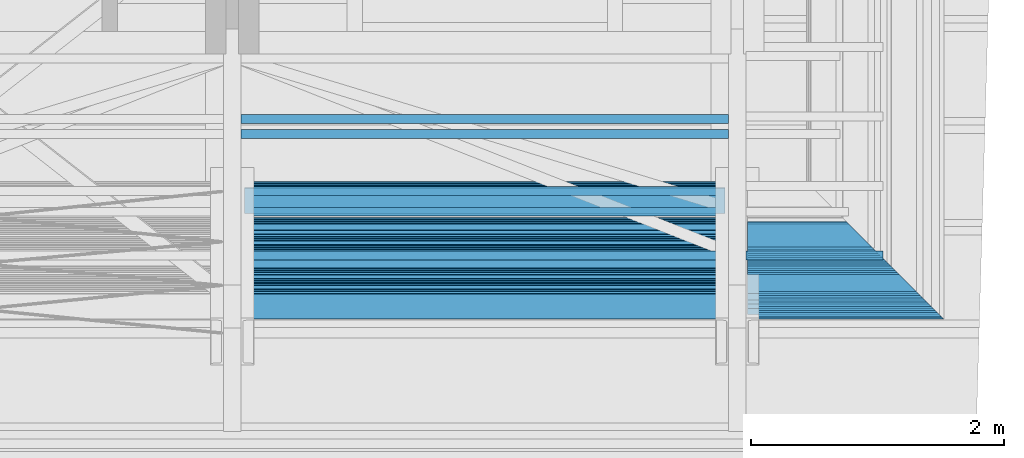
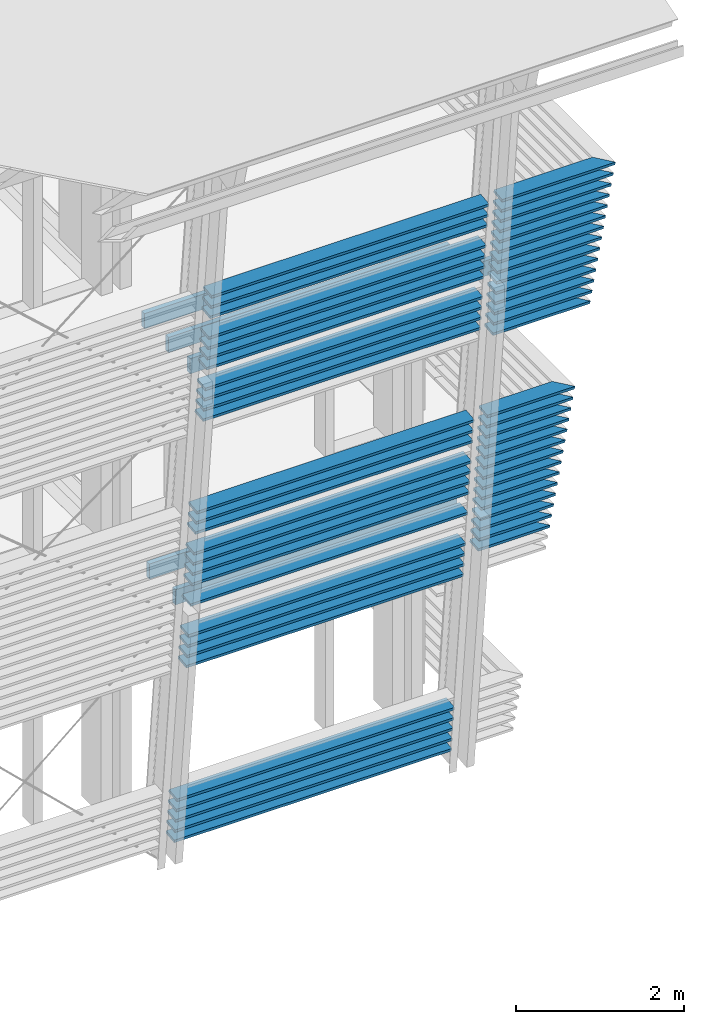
# One storey, part 21 of 48: 62 beams.
"""IFC2X3 building model written with IfcOpenShell, lengths in metres."""

from ifc_helpers import new_model, si_unit, direction, frame, origin_with_axes, place, context, subcontext, project, spatial, faceted_brep, material, element, save


model = new_model("IFC2X3")

# Units and contexts
model_context = context("Model", 3, precision=1e-06, world=origin_with_axes(), true_north=direction((0.0, 1.0, 0.0)))
body_context = subcontext(model_context, "Body", "Model", "MODEL_VIEW")
ifc_project = project(units=[si_unit("LENGTHUNIT", "METRE"), si_unit("AREAUNIT", "SQUARE_METRE"), si_unit("VOLUMEUNIT", "CUBIC_METRE"), si_unit("PLANEANGLEUNIT", "RADIAN")], contexts=[model_context])

# Site, building, storey
site_placement = place(None, origin_with_axes())
site = spatial("IfcSite", under=ifc_project, at=site_placement, CompositionType="ELEMENT")
building_placement = place(site_placement, origin_with_axes())
building = spatial("IfcBuilding", under=site, at=building_placement, Name="Building 1", CompositionType="ELEMENT")
storey_placement = place(building_placement, origin_with_axes())
storey = spatial("IfcBuildingStorey", under=building, at=storey_placement, Name="Storey 1", CompositionType="ELEMENT", Elevation=0.0)

# Beams
ifc_material_1 = material(Name="Moabi")
beam_1_placement = place(storey_placement, frame((70.9248374, -195.4452849, 7.0781028), z_axis=(0.0, 0.9945219, 0.1045285), x_axis=(-1.0, 0.0, 0.0)))
element("IfcBeam", 1, at=beam_1_placement, inside=storey, material=ifc_material_1, Name="garde corp", context=body_context, shape_type="Brep", body=[
    faceted_brep([(0.0, 0.02, -0.1), (0.0041811, -0.02, -0.1), (0.2030855, -0.02, 0.1), (0.1989044, 0.02, 0.1), (1.3533145, -0.02, -0.1), (1.3533145, -0.02, 0.1), (1.3533145, 0.02, -0.1), (1.3533145, 0.02, 0.1)], [[[0, 1, 2, 3]], [[2, 1, 4, 5]], [[1, 0, 6, 4]], [[3, 2, 5, 7]], [[0, 3, 7, 6]], [[4, 6, 7, 5]]]),
])
beam_2_placement = place(storey_placement, frame((71.0251847, -195.5456322, 8.0328439), z_axis=(0.0, 0.9945219, 0.1045285), x_axis=(-1.0, 0.0, 0.0)))
element("IfcBeam", 2, at=beam_2_placement, inside=storey, material=ifc_material_1, Name="garde corp", context=body_context, shape_type="Brep", body=[
    faceted_brep([(0.0, 0.02, -0.1), (0.0041811, -0.02, -0.1), (0.2030855, -0.02, 0.1), (0.1989044, 0.02, 0.1), (1.4536622, -0.02, -0.1), (1.4536622, -0.02, 0.1), (1.4536622, 0.02, -0.1), (1.4536622, 0.02, 0.1)], [[[0, 1, 2, 3]], [[2, 1, 4, 5]], [[1, 0, 6, 4]], [[3, 2, 5, 7]], [[0, 3, 7, 6]], [[4, 6, 7, 5]]]),
])
beam_3_placement = place(storey_placement, frame((70.7408673, -195.2613148, 5.3277443), z_axis=(0.0, 0.9945219, 0.1045285), x_axis=(-1.0, 0.0, 0.0)))
element("IfcBeam", 3, at=beam_3_placement, inside=storey, material=ifc_material_1, Name="garde corp", context=body_context, shape_type="Brep", body=[
    faceted_brep([(0.2030855, -0.02, 0.1), (0.1989044, 0.02, 0.1), (0.0, 0.02, -0.1), (0.0041811, -0.02, -0.1), (1.1693444, 0.02, 0.1), (1.1693444, 0.02, -0.1), (1.1693444, -0.02, 0.1), (1.1693444, -0.02, -0.1)], [[[0, 1, 2, 3]], [[2, 1, 4, 5]], [[1, 0, 6, 4]], [[0, 3, 7, 6]], [[3, 2, 5, 7]], [[7, 5, 4, 6]]]),
])
beam_4_placement = place(storey_placement, frame((70.5903463, -195.1107938, 3.8956328), z_axis=(0.0, 0.9945219, 0.1045285), x_axis=(-1.0, 0.0, 0.0)))
element("IfcBeam", 4, at=beam_4_placement, inside=storey, material=ifc_material_1, Name="garde corp", context=body_context, shape_type="Brep", body=[
    faceted_brep([(0.2030855, -0.02, 0.1), (0.1989044, 0.02, 0.1), (0.0, 0.02, -0.1), (0.0041811, -0.02, -0.1), (1.0188234, 0.02, 0.1), (1.0188234, 0.02, -0.1), (1.0188234, -0.02, 0.1), (1.0188234, -0.02, -0.1)], [[[0, 1, 2, 3]], [[2, 1, 4, 5]], [[1, 0, 6, 4]], [[0, 3, 7, 6]], [[3, 2, 5, 7]], [[7, 5, 4, 6]]]),
])
beam_5_placement = place(storey_placement, frame((71.0586223, -195.5790813, 8.3510909), z_axis=(0.0, 0.9945219, 0.1045285), x_axis=(-1.0, 0.0, 0.0)))
element("IfcBeam", 5, at=beam_5_placement, inside=storey, material=ifc_material_1, Name="garde corp", context=body_context, shape_type="Brep", body=[
    faceted_brep([(0.0, 0.0198904, -0.1), (0.0041811, -0.02, -0.1), (0.2030855, -0.02, 0.1), (0.1988929, 0.02, 0.1), (0.0, 0.02, -0.1), (1.4870994, -0.02, 0.1), (1.4870994, 0.02, 0.1), (1.4870994, -0.02, -0.1), (0.0, 0.02, -0.1), (1.4870994, 0.02, -0.1)], [[[0, 1, 2, 3, 4]], [[3, 2, 5, 6]], [[2, 1, 7, 5]], [[1, 0, 8, 9, 7]], [[4, 3, 6, 9, 8]], [[7, 9, 6, 5]]]),
])
beam_6_placement = place(storey_placement, frame((70.975011, -195.4954586, 7.5554733), z_axis=(0.0, 0.9945219, 0.1045285), x_axis=(-1.0, 0.0, 0.0)))
element("IfcBeam", 6, at=beam_6_placement, inside=storey, material=ifc_material_1, Name="garde corp", context=body_context, shape_type="Brep", body=[
    faceted_brep([(0.0, 0.02, -0.1), (0.0041811, -0.02, -0.1), (0.2030855, -0.02, 0.1), (0.1989044, 0.02, 0.1), (1.4034881, -0.02, -0.1), (1.4034881, -0.02, 0.1), (1.4034881, 0.02, -0.1), (1.4034881, 0.02, 0.1)], [[[0, 1, 2, 3]], [[2, 1, 4, 5]], [[1, 0, 6, 4]], [[3, 2, 5, 7]], [[0, 3, 7, 6]], [[4, 6, 7, 5]]]),
])
beam_7_placement = place(storey_placement, frame((71.0753469, -195.5958059, 8.5102144), z_axis=(0.0, 0.9945219, 0.1045285), x_axis=(-1.0, 0.0, 0.0)))
element("IfcBeam", 7, at=beam_7_placement, inside=storey, material=ifc_material_1, Name="garde corp", context=body_context, shape_type="Brep", body=[
    faceted_brep([(0.0, 0.0198904, -0.1), (0.0041811, -0.02, -0.1), (0.2030855, -0.02, 0.1), (0.1988929, 0.02, 0.1), (0.0, 0.02, -0.1), (1.503824, -0.02, 0.1), (1.503824, 0.02, 0.1), (1.503824, -0.02, -0.1), (0.0, 0.02, -0.1), (1.503824, 0.02, -0.1)], [[[0, 1, 2, 3, 4]], [[3, 2, 5, 6]], [[2, 1, 7, 5]], [[1, 0, 8, 9, 7]], [[4, 3, 6, 9, 8]], [[7, 9, 6, 5]]]),
])
beam_8_placement = place(storey_placement, frame((70.9582865, -195.478734, 7.3963498), z_axis=(0.0, 0.9945219, 0.1045285), x_axis=(-1.0, 0.0, 0.0)))
element("IfcBeam", 8, at=beam_8_placement, inside=storey, material=ifc_material_1, Name="garde corp", context=body_context, shape_type="Brep", body=[
    faceted_brep([(0.0, 0.02, -0.1), (0.0041811, -0.02, -0.1), (0.2030855, -0.02, 0.1), (0.1989044, 0.02, 0.1), (1.3867636, -0.02, -0.1), (1.3867636, -0.02, 0.1), (1.3867636, 0.02, -0.1), (1.3867636, 0.02, 0.1)], [[[0, 1, 2, 3]], [[2, 1, 4, 5]], [[1, 0, 6, 4]], [[3, 2, 5, 7]], [[0, 3, 7, 6]], [[4, 6, 7, 5]]]),
])
beam_9_placement = place(storey_placement, frame((70.9081128, -195.4285604, 6.9189793), z_axis=(0.0, 0.9945219, 0.1045285), x_axis=(-1.0, 0.0, 0.0)))
element("IfcBeam", 9, at=beam_9_placement, inside=storey, material=ifc_material_1, Name="garde corp", context=body_context, shape_type="Brep", body=[
    faceted_brep([(0.0, 0.02, -0.1), (0.0041811, -0.02, -0.1), (0.2030855, -0.02, 0.1), (0.1989044, 0.02, 0.1), (1.3365899, -0.02, -0.1), (1.3365899, -0.02, 0.1), (1.3365899, 0.02, -0.1), (1.3365899, 0.02, 0.1)], [[[0, 1, 2, 3]], [[2, 1, 4, 5]], [[1, 0, 6, 4]], [[3, 2, 5, 7]], [[0, 3, 7, 6]], [[4, 6, 7, 5]]]),
])
beam_10_placement = place(storey_placement, frame((69.3927441, -194.7595782, 0.5540392), z_axis=(0.0, 0.9945219, 0.1045285), x_axis=(-1.0, 0.0, 0.0)))
element("IfcBeam", 10, at=beam_10_placement, inside=storey, material=ifc_material_1, Name="garde corp", context=body_context, shape_type="Brep", body=[
    faceted_brep([(3.806, 0.02, -0.1), (3.806, -0.02, -0.1), (0.0, -0.02, -0.1), (0.0, 0.02, -0.1), (3.806, -0.02, 0.1), (0.0, -0.02, 0.1), (3.806, 0.02, 0.1), (0.0, 0.02, 0.1)], [[[0, 1, 2, 3]], [[1, 4, 5, 2]], [[4, 6, 7, 5]], [[6, 0, 3, 7]], [[1, 0, 6, 4]], [[7, 3, 2, 5]]]),
])
beam_11_placement = place(storey_placement, frame((70.9415619, -195.4620095, 7.2372263), z_axis=(0.0, 0.9945219, 0.1045285), x_axis=(-1.0, 0.0, 0.0)))
element("IfcBeam", 11, at=beam_11_placement, inside=storey, material=ifc_material_1, Name="garde corp", context=body_context, shape_type="Brep", body=[
    faceted_brep([(0.0, 0.02, -0.1), (0.0041811, -0.02, -0.1), (0.2030855, -0.02, 0.1), (0.1989044, 0.02, 0.1), (1.370039, -0.02, -0.1), (1.370039, -0.02, 0.1), (1.370039, 0.02, -0.1), (1.370039, 0.02, 0.1)], [[[0, 1, 2, 3]], [[2, 1, 4, 5]], [[1, 0, 6, 4]], [[3, 2, 5, 7]], [[0, 3, 7, 6]], [[4, 6, 7, 5]]]),
])
beam_12_placement = place(storey_placement, frame((71.0084487, -195.5289077, 7.8737203), z_axis=(0.0, 0.9945219, 0.1045285), x_axis=(-1.0, 0.0, 0.0)))
element("IfcBeam", 12, at=beam_12_placement, inside=storey, material=ifc_material_1, Name="garde corp", context=body_context, shape_type="Brep", body=[
    faceted_brep([(0.0, 0.0198904, -0.1), (0.0041811, -0.02, -0.1), (0.2030855, -0.02, 0.1), (0.1988929, 0.02, 0.1), (0.0, 0.02, -0.1), (1.4369258, -0.02, 0.1), (1.4369258, 0.02, 0.1), (1.4369258, -0.02, -0.1), (1.4369258, 0.02, -0.1)], [[[0, 1, 2, 3, 4]], [[3, 2, 5, 6]], [[2, 1, 7, 5]], [[1, 0, 4, 8, 7]], [[4, 3, 6, 8, 4]], [[7, 8, 6, 5]]]),
])
beam_13_placement = place(storey_placement, frame((71.0419092, -195.5623568, 8.1919674), z_axis=(0.0, 0.9945219, 0.1045285), x_axis=(-1.0, 0.0, 0.0)))
element("IfcBeam", 13, at=beam_13_placement, inside=storey, material=ifc_material_1, Name="garde corp", context=body_context, shape_type="Brep", body=[
    faceted_brep([(0.0, 0.02, -0.1), (0.0041811, -0.02, -0.1), (0.2030855, -0.02, 0.1), (0.1989044, 0.02, 0.1), (1.4703863, -0.02, -0.1), (1.4703863, -0.02, 0.1), (1.4703863, 0.02, -0.1), (1.4703863, 0.02, 0.1)], [[[0, 1, 2, 3]], [[2, 1, 4, 5]], [[1, 0, 6, 4]], [[3, 2, 5, 7]], [[0, 3, 7, 6]], [[4, 6, 7, 5]]]),
])
beam_14_placement = place(storey_placement, frame((70.5568972, -195.0773447, 3.5773858), z_axis=(0.0, 0.9945219, 0.1045285), x_axis=(-1.0, 0.0, 0.0)))
element("IfcBeam", 14, at=beam_14_placement, inside=storey, material=ifc_material_1, Name="garde corp", context=body_context, shape_type="Brep", body=[
    faceted_brep([(0.2030855, -0.02, 0.1), (0.1989044, 0.02, 0.1), (0.0, 0.02, -0.1), (0.0041811, -0.02, -0.1), (0.9853743, 0.02, 0.1), (0.9853743, 0.02, -0.1), (0.9853743, -0.02, 0.1), (0.9853743, -0.02, -0.1)], [[[0, 1, 2, 3]], [[2, 1, 4, 5]], [[1, 0, 6, 4]], [[0, 3, 7, 6]], [[3, 2, 5, 7]], [[7, 5, 4, 6]]]),
])
beam_15_placement = place(storey_placement, frame((70.5736217, -195.0940693, 3.7365093), z_axis=(0.0, 0.9945219, 0.1045285), x_axis=(-1.0, 0.0, 0.0)))
element("IfcBeam", 15, at=beam_15_placement, inside=storey, material=ifc_material_1, Name="garde corp", context=body_context, shape_type="Brep", body=[
    faceted_brep([(0.2030855, -0.02, 0.1), (0.1989044, 0.02, 0.1), (0.0, 0.02, -0.1), (0.0041811, -0.02, -0.1), (1.0020988, 0.02, 0.1), (1.0020988, 0.02, -0.1), (1.0020988, -0.02, 0.1), (1.0020988, -0.02, -0.1)], [[[0, 1, 2, 3]], [[2, 1, 4, 5]], [[1, 0, 6, 4]], [[0, 3, 7, 6]], [[3, 2, 5, 7]], [[7, 5, 4, 6]]]),
])
beam_16_placement = place(storey_placement, frame((70.9917356, -195.5121831, 7.7145968), z_axis=(0.0, 0.9945219, 0.1045285), x_axis=(-1.0, 0.0, 0.0)))
element("IfcBeam", 16, at=beam_16_placement, inside=storey, material=ifc_material_1, Name="garde corp", context=body_context, shape_type="Brep", body=[
    faceted_brep([(0.0, 0.02, -0.1), (0.0041811, -0.02, -0.1), (0.2030855, -0.02, 0.1), (0.1989044, 0.02, 0.1), (1.4202127, -0.02, -0.1), (1.4202127, -0.02, 0.1), (1.4202127, 0.02, -0.1), (1.4202127, 0.02, 0.1)], [[[0, 1, 2, 3]], [[2, 1, 4, 5]], [[1, 0, 6, 4]], [[3, 2, 5, 7]], [[0, 3, 7, 6]], [[4, 6, 7, 5]]]),
])
beam_17_placement = place(storey_placement, frame((70.673969, -195.1944166, 4.6912503), z_axis=(0.0, 0.9945219, 0.1045285), x_axis=(-1.0, 0.0, 0.0)))
element("IfcBeam", 17, at=beam_17_placement, inside=storey, material=ifc_material_1, Name="garde corp", context=body_context, shape_type="Brep", body=[
    faceted_brep([(0.2030855, -0.02, 0.1), (0.1989044, 0.02, 0.1), (0.0, 0.02, -0.1), (0.0041811, -0.02, -0.1), (1.1024462, 0.02, 0.1), (1.1024462, 0.02, -0.1), (1.1024462, -0.02, 0.1), (1.1024462, -0.02, -0.1)], [[[0, 1, 2, 3]], [[2, 1, 4, 5]], [[1, 0, 6, 4]], [[0, 3, 7, 6]], [[3, 2, 5, 7]], [[7, 5, 4, 6]]]),
])
beam_18_placement = place(storey_placement, frame((70.6070708, -195.1275184, 4.0547563), z_axis=(0.0, 0.9945219, 0.1045285), x_axis=(-1.0, 0.0, 0.0)))
element("IfcBeam", 18, at=beam_18_placement, inside=storey, material=ifc_material_1, Name="garde corp", context=body_context, shape_type="Brep", body=[
    faceted_brep([(0.2030855, -0.02, 0.1), (0.1989044, 0.02, 0.1), (0.0, 0.02, -0.1), (0.0041811, -0.02, -0.1), (1.0355479, 0.02, 0.1), (1.0355479, 0.02, -0.1), (1.0355479, -0.02, 0.1), (1.0355479, -0.02, -0.1)], [[[0, 1, 2, 3]], [[2, 1, 4, 5]], [[1, 0, 6, 4]], [[0, 3, 7, 6]], [[3, 2, 5, 7]], [[7, 5, 4, 6]]]),
])
beam_19_placement = place(storey_placement, frame((71.108796, -195.629255, 8.8284614), z_axis=(0.0, 0.9945219, 0.1045285), x_axis=(-1.0, 0.0, 0.0)))
element("IfcBeam", 19, at=beam_19_placement, inside=storey, material=ifc_material_1, Name="garde corp", context=body_context, shape_type="Brep", body=[
    faceted_brep([(0.0, 0.0198904, -0.1), (0.0041811, -0.02, -0.1), (0.2030855, -0.02, 0.1), (0.1988929, 0.02, 0.1), (0.0, 0.02, -0.1), (1.5372731, -0.02, 0.1), (1.5372731, 0.02, 0.1), (1.5372731, -0.02, -0.1), (0.0, 0.02, -0.1), (1.5372731, 0.02, -0.1)], [[[0, 1, 2, 3, 4]], [[3, 2, 5, 6]], [[2, 1, 7, 5]], [[1, 0, 8, 9, 7]], [[4, 3, 6, 9, 8]], [[7, 9, 6, 5]]]),
])
beam_20_placement = place(storey_placement, frame((70.6906936, -195.2111412, 4.8503738), z_axis=(0.0, 0.9945219, 0.1045285), x_axis=(-1.0, 0.0, 0.0)))
element("IfcBeam", 20, at=beam_20_placement, inside=storey, material=ifc_material_1, Name="garde corp", context=body_context, shape_type="Brep", body=[
    faceted_brep([(0.2030855, -0.02, 0.1), (0.1989044, 0.02, 0.1), (0.0, 0.02, -0.1), (0.0041811, -0.02, -0.1), (1.1191707, 0.02, 0.1), (1.1191707, 0.02, -0.1), (1.1191707, -0.02, 0.1), (1.1191707, -0.02, -0.1)], [[[0, 1, 2, 3]], [[2, 1, 4, 5]], [[1, 0, 6, 4]], [[0, 3, 7, 6]], [[3, 2, 5, 7]], [[7, 5, 4, 6]]]),
])
beam_21_placement = place(storey_placement, frame((70.6572445, -195.177692, 4.5321268), z_axis=(0.0, 0.9945219, 0.1045285), x_axis=(-1.0, 0.0, 0.0)))
element("IfcBeam", 21, at=beam_21_placement, inside=storey, material=ifc_material_1, Name="garde corp", context=body_context, shape_type="Brep", body=[
    faceted_brep([(0.2030855, -0.02, 0.1), (0.1989044, 0.02, 0.1), (0.0, 0.02, -0.1), (0.0041811, -0.02, -0.1), (1.0857216, 0.02, 0.1), (1.0857216, 0.02, -0.1), (1.0857216, -0.02, 0.1), (1.0857216, -0.02, -0.1)], [[[0, 1, 2, 3]], [[2, 1, 4, 5]], [[1, 0, 6, 4]], [[0, 3, 7, 6]], [[3, 2, 5, 7]], [[7, 5, 4, 6]]]),
])
beam_22_placement = place(storey_placement, frame((70.7575918, -195.2780394, 5.4868678), z_axis=(0.0, 0.9945219, 0.1045285), x_axis=(-1.0, 0.0, 0.0)))
element("IfcBeam", 22, at=beam_22_placement, inside=storey, material=ifc_material_1, Name="garde corp", context=body_context, shape_type="Brep", body=[
    faceted_brep([(0.2030855, -0.02, 0.1), (0.1989044, 0.02, 0.1), (0.0, 0.02, -0.1), (0.0041811, -0.02, -0.1), (1.1860689, 0.02, 0.1), (1.1860689, 0.02, -0.1), (1.1860689, -0.02, 0.1), (1.1860689, -0.02, -0.1)], [[[0, 1, 2, 3]], [[2, 1, 4, 5]], [[1, 0, 6, 4]], [[0, 3, 7, 6]], [[3, 2, 5, 7]], [[7, 5, 4, 6]]]),
])
beam_23_placement = place(storey_placement, frame((70.6237954, -195.1442429, 4.2138798), z_axis=(0.0, 0.9945219, 0.1045285), x_axis=(-1.0, 0.0, 0.0)))
element("IfcBeam", 23, at=beam_23_placement, inside=storey, material=ifc_material_1, Name="garde corp", context=body_context, shape_type="Brep", body=[
    faceted_brep([(0.2030855, -0.02, 0.1), (0.1989044, 0.02, 0.1), (0.0, 0.02, -0.1), (0.0041811, -0.02, -0.1), (1.0522725, 0.02, 0.1), (1.0522725, 0.02, -0.1), (1.0522725, -0.02, 0.1), (1.0522725, -0.02, -0.1)], [[[0, 1, 2, 3]], [[2, 1, 4, 5]], [[1, 0, 6, 4]], [[0, 3, 7, 6]], [[3, 2, 5, 7]], [[7, 5, 4, 6]]]),
])
beam_24_placement = place(storey_placement, frame((71.0920829, -195.6125305, 8.6693379), z_axis=(0.0, 0.9945219, 0.1045285), x_axis=(-1.0, 0.0, 0.0)))
element("IfcBeam", 24, at=beam_24_placement, inside=storey, material=ifc_material_1, Name="garde corp", context=body_context, shape_type="Brep", body=[
    faceted_brep([(0.0, 0.02, -0.1), (0.0041811, -0.02, -0.1), (0.2030855, -0.02, 0.1), (0.1989044, 0.02, 0.1), (1.5205604, -0.02, -0.1), (1.5205604, -0.02, 0.1), (1.5205604, 0.02, -0.1), (1.5205604, 0.02, 0.1)], [[[0, 1, 2, 3]], [[2, 1, 4, 5]], [[1, 0, 6, 4]], [[3, 2, 5, 7]], [[0, 3, 7, 6]], [[4, 6, 7, 5]]]),
])
beam_25_placement = place(storey_placement, frame((70.6405199, -195.1609675, 4.3730033), z_axis=(0.0, 0.9945219, 0.1045285), x_axis=(-1.0, 0.0, 0.0)))
element("IfcBeam", 25, at=beam_25_placement, inside=storey, material=ifc_material_1, Name="garde corp", context=body_context, shape_type="Brep", body=[
    faceted_brep([(0.2030855, -0.02, 0.1), (0.1989044, 0.02, 0.1), (0.0, 0.02, -0.1), (0.0041811, -0.02, -0.1), (1.068997, 0.02, 0.1), (1.068997, 0.02, -0.1), (1.068997, -0.02, 0.1), (1.068997, -0.02, -0.1)], [[[0, 1, 2, 3]], [[2, 1, 4, 5]], [[1, 0, 6, 4]], [[0, 3, 7, 6]], [[3, 2, 5, 7]], [[7, 5, 4, 6]]]),
])
beam_26_placement = place(storey_placement, frame((70.7074182, -195.2278657, 5.0094973), z_axis=(0.0, 0.9945219, 0.1045285), x_axis=(-1.0, 0.0, 0.0)))
element("IfcBeam", 26, at=beam_26_placement, inside=storey, material=ifc_material_1, Name="garde corp", context=body_context, shape_type="Brep", body=[
    faceted_brep([(0.2030855, -0.02, 0.1), (0.1989044, 0.02, 0.1), (0.0, 0.02, -0.1), (0.0041811, -0.02, -0.1), (1.1358953, 0.02, 0.1), (1.1358953, 0.02, -0.1), (1.1358953, -0.02, 0.1), (1.1358953, -0.02, -0.1)], [[[0, 1, 2, 3]], [[2, 1, 4, 5]], [[1, 0, 6, 4]], [[0, 3, 7, 6]], [[3, 2, 5, 7]], [[7, 5, 4, 6]]]),
])
beam_27_placement = place(storey_placement, frame((70.7241427, -195.2445903, 5.1686208), z_axis=(0.0, 0.9945219, 0.1045285), x_axis=(-1.0, 0.0, 0.0)))
element("IfcBeam", 27, at=beam_27_placement, inside=storey, material=ifc_material_1, Name="garde corp", context=body_context, shape_type="Brep", body=[
    faceted_brep([(0.2030855, -0.02, 0.1), (0.1989044, 0.02, 0.1), (0.0, 0.02, -0.1), (0.0041811, -0.02, -0.1), (1.1526198, 0.02, 0.1), (1.1526198, 0.02, -0.1), (1.1526198, -0.02, 0.1), (1.1526198, -0.02, -0.1)], [[[0, 1, 2, 3]], [[2, 1, 4, 5]], [[1, 0, 6, 4]], [[0, 3, 7, 6]], [[3, 2, 5, 7]], [[7, 5, 4, 6]]]),
])
beam_28_placement = place(storey_placement, frame((69.3927441, -195.5623568, 8.1919674), z_axis=(0.0, 0.9945219, 0.1045285), x_axis=(-1.0, 0.0, 0.0)))
element("IfcBeam", 28, at=beam_28_placement, inside=storey, material=ifc_material_1, Name="garde corp", context=body_context, shape_type="Brep", body=[
    faceted_brep([(3.806, 0.02, -0.1), (3.806, -0.02, -0.1), (0.0, -0.02, -0.1), (0.0, 0.02, -0.1), (3.806, -0.02, 0.1), (0.0, -0.02, 0.1), (3.806, 0.02, 0.1), (0.0, 0.02, 0.1)], [[[0, 1, 2, 3]], [[1, 4, 5, 2]], [[4, 6, 7, 5]], [[6, 0, 3, 7]], [[1, 0, 6, 4]], [[7, 3, 2, 5]]]),
])
beam_29_placement = place(storey_placement, frame((71.125532, -195.6459796, 8.9875849), z_axis=(0.0, 0.9945219, 0.1045285), x_axis=(-1.0, 0.0, 0.0)))
element("IfcBeam", 29, at=beam_29_placement, inside=storey, material=ifc_material_1, Name="garde corp", context=body_context, shape_type="Brep", body=[
    faceted_brep([(0.0, 0.02, -0.1), (0.0041811, -0.02, -0.1), (0.2030855, -0.02, 0.1), (0.1989044, 0.02, 0.1), (1.5540095, -0.02, -0.1), (1.5540095, -0.02, 0.1), (1.5540095, 0.02, -0.1), (1.5540095, 0.02, 0.1)], [[[0, 1, 2, 3]], [[2, 1, 4, 5]], [[1, 0, 6, 4]], [[3, 2, 5, 7]], [[0, 3, 7, 6]], [[4, 6, 7, 5]]]),
])
beam_30_placement = place(storey_placement, frame((70.7743164, -195.2947639, 5.6459913), z_axis=(0.0, 0.9945219, 0.1045285), x_axis=(-1.0, 0.0, 0.0)))
element("IfcBeam", 30, at=beam_30_placement, inside=storey, material=ifc_material_1, Name="garde corp", context=body_context, shape_type="Brep", body=[
    faceted_brep([(0.2030855, -0.02, 0.1), (0.1989044, 0.02, 0.1), (0.0, 0.02, -0.1), (0.0041811, -0.02, -0.1), (1.2027935, 0.02, 0.1), (1.2027935, 0.02, -0.1), (1.2027935, -0.02, 0.1), (1.2027935, -0.02, -0.1)], [[[0, 1, 2, 3]], [[2, 1, 4, 5]], [[1, 0, 6, 4]], [[0, 3, 7, 6]], [[3, 2, 5, 7]], [[7, 5, 4, 6]]]),
])
for number, where, z_axis, x_axis, name in (
    (31, (69.3927439, -195.2278657, 5.0094973), (0.0, 0.9945219, 0.1045285), (-1.0, 0.0, 0.0), "garde corp"),
    (32, (69.3927439, -195.177692, 4.5321268), (0.0, 0.9945219, 0.1045285), (-1.0, 0.0, 0.0), "garde corp"),
):
    element("IfcBeam", number, at=place(storey_placement, frame(where, z_axis=z_axis, x_axis=x_axis)), inside=storey, material=ifc_material_1, Name=name, context=body_context, shape_type="Brep", body=[
        faceted_brep([(3.8047069, 0.02, -0.1), (3.8047071, -0.02, -0.1), (0.0, -0.02, -0.1), (0.0, 0.02, -0.1), (3.8047069, -0.02, 0.1), (0.0, -0.02, 0.1), (3.8047071, 0.02, 0.1), (0.0, 0.02, 0.1)], [[[0, 1, 2, 3]], [[1, 4, 5, 2]], [[4, 6, 7, 5]], [[6, 0, 3, 7]], [[1, 0, 6, 4]], [[7, 3, 2, 5]]]),
    ])
beam_31_placement = place(storey_placement, frame((69.3927439, -195.2780394, 5.4868678), z_axis=(0.0, 0.9945219, 0.1045285), x_axis=(-1.0, 0.0, 0.0)))
element("IfcBeam", 33, at=beam_31_placement, inside=storey, material=ifc_material_1, Name="garde corp", context=body_context, shape_type="Brep", body=[
    faceted_brep([(3.8047069, 0.02, -0.1), (3.8047069, -0.02, -0.1), (0.0, -0.02, -0.1), (0.0, 0.02, -0.1), (3.8047069, -0.02, 0.1), (0.0, -0.02, 0.1), (3.8047071, 0.02, 0.1), (0.0, 0.02, 0.1)], [[[0, 1, 2, 3]], [[1, 4, 5, 2]], [[4, 6, 7, 5]], [[6, 0, 3, 7]], [[1, 0, 6, 4]], [[7, 3, 2, 5]]]),
])
beam_32_placement = place(storey_placement, frame((69.3927441, -195.629255, 8.8284614), z_axis=(0.0, 0.9945219, 0.1045285), x_axis=(-1.0, 0.0, 0.0)))
element("IfcBeam", 34, at=beam_32_placement, inside=storey, material=ifc_material_1, Name="garde corp", context=body_context, shape_type="Brep", body=[
    faceted_brep([(3.806, 0.02, -0.1), (3.806, -0.02, -0.1), (0.0, -0.02, -0.1), (0.0, 0.02, -0.1), (3.806, -0.02, 0.1), (0.0, -0.02, 0.1), (3.806, 0.02, 0.1), (0.0, 0.02, 0.1)], [[[0, 1, 2, 3]], [[1, 4, 5, 2]], [[4, 6, 7, 5]], [[6, 0, 3, 7]], [[1, 0, 6, 4]], [[7, 3, 2, 5]]]),
])
beam_33_placement = place(storey_placement, frame((69.3927439, -195.2111412, 4.8503738), z_axis=(0.0, 0.9945219, 0.1045285), x_axis=(-1.0, 0.0, 0.0)))
element("IfcBeam", 35, at=beam_33_placement, inside=storey, material=ifc_material_1, Name="garde corp", context=body_context, shape_type="Brep", body=[
    faceted_brep([(3.8048055, 0.02, -0.1), (3.8048055, -0.02, -0.1), (0.0, -0.02, -0.1), (0.0, 0.02, -0.1), (3.8048055, -0.02, 0.1), (0.0, -0.02, 0.1), (3.8048055, 0.02, 0.1), (0.0, 0.02, 0.1)], [[[0, 1, 2, 3]], [[1, 4, 5, 2]], [[4, 6, 7, 5]], [[6, 0, 3, 7]], [[1, 0, 6, 4]], [[7, 3, 2, 5]]]),
])
ifc_material_2 = material(Name="GL28h")
beam_34_placement = place(storey_placement, frame((65.5597437, -194.7346515, 7.699), z_axis=(0.0, 0.0, 1.0), x_axis=(1.0, 0.0, 0.0)))
element("IfcBeam", 36, at=beam_34_placement, inside=storey, material=ifc_material_2, Name="Solive", context=body_context, shape_type="Brep", body=[
    faceted_brep([(3.86, 0.035, 0.11), (3.86, 0.035, -0.11), (0.0, 0.035, -0.11), (0.0, 0.035, 0.11), (3.86, -0.035, -0.11), (0.0, -0.035, -0.11), (3.86, -0.035, 0.11), (0.0, -0.035, 0.11)], [[[0, 1, 2, 3]], [[1, 4, 5, 2]], [[4, 6, 7, 5]], [[6, 0, 3, 7]], [[1, 0, 6, 4]], [[7, 3, 2, 5]]]),
])
beam_35_placement = place(storey_placement, frame((69.3927439, -195.0606202, 3.4182623), z_axis=(0.0, 0.9945219, 0.1045285), x_axis=(-1.0, 0.0, 0.0)))
element("IfcBeam", 37, at=beam_35_placement, inside=storey, material=ifc_material_1, Name="garde corp", context=body_context, shape_type="Brep", body=[
    faceted_brep([(3.8047069, 0.02, -0.1), (3.8047069, -0.02, -0.1), (0.0, -0.02, -0.1), (0.0, 0.02, -0.1), (3.8047069, -0.02, 0.1), (0.0, -0.02, 0.1), (3.8047071, 0.02, 0.1), (0.0, 0.02, 0.1)], [[[0, 1, 2, 3]], [[1, 4, 5, 2]], [[4, 6, 7, 5]], [[6, 0, 3, 7]], [[1, 0, 6, 4]], [[7, 3, 2, 5]]]),
])
beam_36_placement = place(storey_placement, frame((65.5597437, -194.1646515, 7.699), z_axis=(0.0, 0.0, 1.0), x_axis=(1.0, 0.0, 0.0)))
element("IfcBeam", 38, at=beam_36_placement, inside=storey, material=ifc_material_2, Name="Solive", context=body_context, shape_type="Brep", body=[
    faceted_brep([(3.86, 0.035, 0.11), (3.86, 0.035, -0.11), (0.0, 0.035, -0.11), (0.0, 0.035, 0.11), (3.86, -0.035, -0.11), (0.0, -0.035, -0.11), (3.86, -0.035, 0.11), (0.0, -0.035, 0.11)], [[[0, 1, 2, 3]], [[1, 4, 5, 2]], [[4, 6, 7, 5]], [[6, 0, 3, 7]], [[1, 0, 6, 4]], [[7, 3, 2, 5]]]),
])
beam_37_placement = place(storey_placement, frame((65.5597437, -195.2446515, 7.699), z_axis=(0.0, 0.0, 1.0), x_axis=(1.0, 0.0, 0.0)))
element("IfcBeam", 39, at=beam_37_placement, inside=storey, material=ifc_material_2, Name="Solive", context=body_context, shape_type="Brep", body=[
    faceted_brep([(0.0, -0.035, -0.11), (0.0, -0.035, 0.11), (0.0, 0.035, 0.11), (0.0, 0.035, -0.11), (3.8599996, -0.035, 0.11), (3.8599996, 0.035, 0.11), (3.8599996, -0.035, -0.11), (3.8599996, 0.035, -0.11)], [[[0, 1, 2, 3]], [[2, 1, 4, 5]], [[1, 0, 6, 4]], [[0, 3, 7, 6]], [[3, 2, 5, 7]], [[7, 5, 4, 6]]]),
])
for number, where, z_axis, x_axis, name in (
    (40, (69.3927441, -194.8264764, 1.1905332), (0.0, 0.9945219, 0.1045285), (-1.0, 0.0, 0.0), "garde corp"),
    (41, (69.3927441, -195.4954586, 7.5554733), (0.0, 0.9945219, 0.1045285), (-1.0, 0.0, 0.0), "garde corp"),
):
    element("IfcBeam", number, at=place(storey_placement, frame(where, z_axis=z_axis, x_axis=x_axis)), inside=storey, material=ifc_material_1, Name=name, context=body_context, shape_type="Brep", body=[
        faceted_brep([(3.806, 0.02, -0.1), (3.806, -0.02, -0.1), (0.0, -0.02, -0.1), (0.0, 0.02, -0.1), (3.806, -0.02, 0.1), (0.0, -0.02, 0.1), (3.806, 0.02, 0.1), (0.0, 0.02, 0.1)], [[[0, 1, 2, 3]], [[1, 4, 5, 2]], [[4, 6, 7, 5]], [[6, 0, 3, 7]], [[1, 0, 6, 4]], [[7, 3, 2, 5]]]),
    ])
beam_38_placement = place(storey_placement, frame((69.3927439, -195.2613148, 5.3277443), z_axis=(0.0, 0.9945219, 0.1045285), x_axis=(-1.0, 0.0, 0.0)))
element("IfcBeam", 42, at=beam_38_placement, inside=storey, material=ifc_material_1, Name="garde corp", context=body_context, shape_type="Brep", body=[
    faceted_brep([(3.8048055, 0.02, -0.1), (3.8048055, -0.02, -0.1), (0.0, -0.02, -0.1), (0.0, 0.02, -0.1), (3.8048055, -0.02, 0.1), (0.0, -0.02, 0.1), (3.8048055, 0.02, 0.1), (0.0, 0.02, 0.1)], [[[0, 1, 2, 3]], [[1, 4, 5, 2]], [[4, 6, 7, 5]], [[6, 0, 3, 7]], [[1, 0, 6, 4]], [[7, 3, 2, 5]]]),
])
beam_39_placement = place(storey_placement, frame((69.3927439, -195.1442429, 4.2138798), z_axis=(0.0, 0.9945219, 0.1045285), x_axis=(-1.0, 0.0, 0.0)))
element("IfcBeam", 43, at=beam_39_placement, inside=storey, material=ifc_material_1, Name="garde corp", context=body_context, shape_type="Brep", body=[
    faceted_brep([(3.8048051, 0.02, -0.1), (3.8048051, -0.02, -0.1), (0.0, -0.02, -0.1), (0.0, 0.02, -0.1), (3.8048051, -0.02, 0.1), (0.0, -0.02, 0.1), (3.8048051, 0.02, 0.1), (0.0, 0.02, 0.1)], [[[0, 1, 2, 3]], [[1, 4, 5, 2]], [[4, 6, 7, 5]], [[6, 0, 3, 7]], [[1, 0, 6, 4]], [[7, 3, 2, 5]]]),
])
beam_40_placement = place(storey_placement, frame((69.3927437, -195.6125305, 8.6693379), z_axis=(0.0, 0.9945219, 0.1045285), x_axis=(-1.0, 0.0, 0.0)))
element("IfcBeam", 44, at=beam_40_placement, inside=storey, material=ifc_material_1, Name="garde corp", context=body_context, shape_type="Brep", body=[
    faceted_brep([(3.806, 0.02, -0.1), (3.806, -0.02, -0.1), (0.0, -0.02, -0.1), (0.0, 0.02, -0.1), (3.806, -0.02, 0.1), (0.0, -0.02, 0.1), (3.806, 0.02, 0.1), (0.0, 0.02, 0.1)], [[[0, 1, 2, 3]], [[1, 4, 5, 2]], [[4, 6, 7, 5]], [[6, 0, 3, 7]], [[1, 0, 6, 4]], [[7, 3, 2, 5]]]),
])
beam_41_placement = place(storey_placement, frame((65.5597437, -194.898689, 4.139), z_axis=(0.0, 0.0, 1.0), x_axis=(1.0, 0.0, 0.0)))
element("IfcBeam", 45, at=beam_41_placement, inside=storey, material=ifc_material_2, Name="Solive", context=body_context, shape_type="Brep", body=[
    faceted_brep([(3.86, 0.035, 0.11), (3.86, 0.035, -0.11), (0.0, 0.035, -0.11), (0.0, 0.035, 0.11), (3.86, -0.035, -0.11), (0.0, -0.035, -0.11), (3.86, -0.035, 0.11), (0.0, -0.035, 0.11)], [[[0, 1, 2, 3]], [[1, 4, 5, 2]], [[4, 6, 7, 5]], [[6, 0, 3, 7]], [[1, 0, 6, 4]], [[7, 3, 2, 5]]]),
])
beam_42_placement = place(storey_placement, frame((69.3927441, -194.7763027, 0.7131627), z_axis=(0.0, 0.9945219, 0.1045285), x_axis=(-1.0, 0.0, 0.0)))
element("IfcBeam", 46, at=beam_42_placement, inside=storey, material=ifc_material_1, Name="garde corp", context=body_context, shape_type="Brep", body=[
    faceted_brep([(3.806, 0.02, -0.1), (3.806, -0.02, -0.1), (0.0, -0.02, -0.1), (0.0, 0.02, -0.1), (3.806, -0.02, 0.1), (0.0, -0.02, 0.1), (3.806, 0.02, 0.1), (0.0, 0.02, 0.1)], [[[0, 1, 2, 3]], [[1, 4, 5, 2]], [[4, 6, 7, 5]], [[6, 0, 3, 7]], [[1, 0, 6, 4]], [[7, 3, 2, 5]]]),
])
beam_43_placement = place(storey_placement, frame((65.5597437, -194.2816702, 4.139), z_axis=(0.0, 0.0, 1.0), x_axis=(1.0, 0.0, 0.0)))
element("IfcBeam", 47, at=beam_43_placement, inside=storey, material=ifc_material_2, Name="Solive", context=body_context, shape_type="Brep", body=[
    faceted_brep([(3.86, 0.035, 0.11), (3.86, 0.035, -0.11), (0.0, 0.035, -0.11), (0.0, 0.035, 0.11), (3.86, -0.035, -0.11), (0.0, -0.035, -0.11), (3.86, -0.035, 0.11), (0.0, -0.035, 0.11)], [[[0, 1, 2, 3]], [[1, 4, 5, 2]], [[4, 6, 7, 5]], [[6, 0, 3, 7]], [[1, 0, 6, 4]], [[7, 3, 2, 5]]]),
])
beam_44_placement = place(storey_placement, frame((69.3927441, -194.7930273, 0.8722862), z_axis=(0.0, 0.9945219, 0.1045285), x_axis=(-1.0, 0.0, 0.0)))
element("IfcBeam", 48, at=beam_44_placement, inside=storey, material=ifc_material_1, Name="garde corp", context=body_context, shape_type="Brep", body=[
    faceted_brep([(3.806, 0.02, -0.1), (3.806, -0.02, -0.1), (0.0, -0.02, -0.1), (0.0, 0.02, -0.1), (3.806, -0.02, 0.1), (0.0, -0.02, 0.1), (3.806, 0.02, 0.1), (0.0, 0.02, 0.1)], [[[0, 1, 2, 3]], [[1, 4, 5, 2]], [[4, 6, 7, 5]], [[6, 0, 3, 7]], [[1, 0, 6, 4]], [[7, 3, 2, 5]]]),
])
beam_45_placement = place(storey_placement, frame((70.6436389, -195.2446515, 7.699), z_axis=(0.0, 0.0, 1.0), x_axis=(-1.0, 0.0, 0.0)))
element("IfcBeam", 49, at=beam_45_placement, inside=storey, material=ifc_material_2, Name="Solive", context=body_context, shape_type="Brep", body=[
    faceted_brep([(1.0838952, -0.035, -0.11), (1.0838952, 0.035, -0.11), (1.0838952, 0.035, 0.11), (1.0838952, -0.035, 0.11), (0.0, 0.035, -0.11), (0.0, 0.035, 0.11), (0.0, -0.035, -0.11), (0.0, -0.035, 0.11)], [[[0, 1, 2, 3]], [[2, 1, 4, 5]], [[1, 0, 6, 4]], [[0, 3, 7, 6]], [[3, 2, 5, 7]], [[7, 5, 4, 6]]]),
])
for number, where, z_axis, x_axis, name in (
    (50, (69.3927437, -195.6459796, 8.9875849), (0.0, 0.9945219, 0.1045285), (-1.0, 0.0, 0.0), "garde corp"),
    (51, (69.3927441, -195.5790813, 8.3510909), (0.0, 0.9945219, 0.1045285), (-1.0, 0.0, 0.0), "garde corp"),
    (52, (69.3927437, -195.5456322, 8.0328439), (0.0, 0.9945219, 0.1045285), (-1.0, 0.0, 0.0), "garde corp"),
):
    element("IfcBeam", number, at=place(storey_placement, frame(where, z_axis=z_axis, x_axis=x_axis)), inside=storey, material=ifc_material_1, Name=name, context=body_context, shape_type="Brep", body=[
        faceted_brep([(3.806, 0.02, -0.1), (3.806, -0.02, -0.1), (0.0, -0.02, -0.1), (0.0, 0.02, -0.1), (3.806, -0.02, 0.1), (0.0, -0.02, 0.1), (3.806, 0.02, 0.1), (0.0, 0.02, 0.1)], [[[0, 1, 2, 3]], [[1, 4, 5, 2]], [[4, 6, 7, 5]], [[6, 0, 3, 7]], [[1, 0, 6, 4]], [[7, 3, 2, 5]]]),
    ])
beam_46_placement = place(storey_placement, frame((69.3927439, -195.1944166, 4.6912503), z_axis=(0.0, 0.9945219, 0.1045285), x_axis=(-1.0, 0.0, 0.0)))
element("IfcBeam", 53, at=beam_46_placement, inside=storey, material=ifc_material_1, Name="garde corp", context=body_context, shape_type="Brep", body=[
    faceted_brep([(3.8047069, 0.02, -0.1), (3.8047071, -0.02, -0.1), (0.0, -0.02, -0.1), (0.0, 0.02, -0.1), (3.8047071, -0.02, 0.1), (0.0, -0.02, 0.1), (3.8047071, 0.02, 0.1), (0.0, 0.02, 0.1)], [[[0, 1, 2, 3]], [[1, 4, 5, 2]], [[4, 6, 7, 5]], [[6, 0, 3, 7]], [[1, 0, 6, 4]], [[7, 3, 2, 5]]]),
])
beam_47_placement = place(storey_placement, frame((69.3927439, -195.0438956, 3.2591388), z_axis=(0.0, 0.9945219, 0.1045285), x_axis=(-1.0, 0.0, 0.0)))
element("IfcBeam", 54, at=beam_47_placement, inside=storey, material=ifc_material_1, Name="garde corp", context=body_context, shape_type="Brep", body=[
    faceted_brep([(3.8048051, 0.02, -0.1), (3.8048051, -0.02, -0.1), (0.0, -0.02, -0.1), (0.0, 0.02, -0.1), (3.8048051, -0.02, 0.1), (0.0, -0.02, 0.1), (3.8048051, 0.02, 0.1), (0.0, 0.02, 0.1)], [[[0, 1, 2, 3]], [[1, 4, 5, 2]], [[4, 6, 7, 5]], [[6, 0, 3, 7]], [[1, 0, 6, 4]], [[7, 3, 2, 5]]]),
])
beam_48_placement = place(storey_placement, frame((69.3927441, -195.5289077, 7.8737203), z_axis=(0.0, 0.9945219, 0.1045285), x_axis=(-1.0, 0.0, 0.0)))
element("IfcBeam", 55, at=beam_48_placement, inside=storey, material=ifc_material_1, Name="garde corp", context=body_context, shape_type="Brep", body=[
    faceted_brep([(3.806, 0.02, -0.1), (3.806, -0.02, -0.1), (0.0, -0.02, -0.1), (0.0, 0.02, -0.1), (3.806, -0.02, 0.1), (0.0, -0.02, 0.1), (3.806, 0.02, 0.1), (0.0, 0.02, 0.1)], [[[0, 1, 2, 3]], [[1, 4, 5, 2]], [[4, 6, 7, 5]], [[6, 0, 3, 7]], [[1, 0, 6, 4]], [[7, 3, 2, 5]]]),
])
beam_49_placement = place(storey_placement, frame((69.3927439, -195.2947639, 5.6459913), z_axis=(0.0, 0.9945219, 0.1045285), x_axis=(-1.0, 0.0, 0.0)))
element("IfcBeam", 56, at=beam_49_placement, inside=storey, material=ifc_material_1, Name="garde corp", context=body_context, shape_type="Brep", body=[
    faceted_brep([(3.8048055, 0.02, -0.1), (3.8048055, -0.02, -0.1), (0.0, -0.02, -0.1), (0.0, 0.02, -0.1), (3.8048055, -0.02, 0.1), (0.0, -0.02, 0.1), (3.8048055, 0.02, 0.1), (0.0, 0.02, 0.1)], [[[0, 1, 2, 3]], [[1, 4, 5, 2]], [[4, 6, 7, 5]], [[6, 0, 3, 7]], [[1, 0, 6, 4]], [[7, 3, 2, 5]]]),
])
beam_50_placement = place(storey_placement, frame((69.3927439, -195.0773447, 3.5773858), z_axis=(0.0, 0.9945219, 0.1045285), x_axis=(-1.0, 0.0, 0.0)))
element("IfcBeam", 57, at=beam_50_placement, inside=storey, material=ifc_material_1, Name="garde corp", context=body_context, shape_type="Brep", body=[
    faceted_brep([(3.8047071, 0.02, -0.1), (3.8047071, -0.02, -0.1), (0.0, -0.02, -0.1), (0.0, 0.02, -0.1), (3.8047071, -0.02, 0.1), (0.0, -0.02, 0.1), (3.8047071, 0.02, 0.1), (0.0, 0.02, 0.1)], [[[0, 1, 2, 3]], [[1, 4, 5, 2]], [[4, 6, 7, 5]], [[6, 0, 3, 7]], [[1, 0, 6, 4]], [[7, 3, 2, 5]]]),
])
beam_51_placement = place(storey_placement, frame((69.3927441, -195.4620095, 7.2372263), z_axis=(0.0, 0.9945219, 0.1045285), x_axis=(-1.0, 0.0, 0.0)))
element("IfcBeam", 58, at=beam_51_placement, inside=storey, material=ifc_material_1, Name="garde corp", context=body_context, shape_type="Brep", body=[
    faceted_brep([(3.806, 0.02, -0.1), (3.806, -0.02, -0.1), (0.0, -0.02, -0.1), (0.0, 0.02, -0.1), (3.806, -0.02, 0.1), (0.0, -0.02, 0.1), (3.806, 0.02, 0.1), (0.0, 0.02, 0.1)], [[[0, 1, 2, 3]], [[1, 4, 5, 2]], [[4, 6, 7, 5]], [[6, 0, 3, 7]], [[1, 0, 6, 4]], [[7, 3, 2, 5]]]),
])
beam_52_placement = place(storey_placement, frame((69.3927439, -195.0940693, 3.7365093), z_axis=(0.0, 0.9945219, 0.1045285), x_axis=(-1.0, 0.0, 0.0)))
element("IfcBeam", 59, at=beam_52_placement, inside=storey, material=ifc_material_1, Name="garde corp", context=body_context, shape_type="Brep", body=[
    faceted_brep([(3.8047069, 0.02, -0.1), (3.8047071, -0.02, -0.1), (0.0, -0.02, -0.1), (0.0, 0.02, -0.1), (3.8047071, -0.02, 0.1), (0.0, -0.02, 0.1), (3.8047071, 0.02, 0.1), (0.0, 0.02, 0.1)], [[[0, 1, 2, 3]], [[1, 4, 5, 2]], [[4, 6, 7, 5]], [[6, 0, 3, 7]], [[1, 0, 6, 4]], [[7, 3, 2, 5]]]),
])
for number, where, z_axis, x_axis, name in (
    (60, (69.3927441, -195.478734, 7.3963498), (0.0, 0.9945219, 0.1045285), (-1.0, 0.0, 0.0), "garde corp"),
    (61, (69.3927441, -194.8097519, 1.0314097), (0.0, 0.9945219, 0.1045285), (-1.0, 0.0, 0.0), "garde corp"),
    (62, (69.3927441, -195.4452849, 7.0781028), (0.0, 0.9945219, 0.1045285), (-1.0, 0.0, 0.0), "garde corp"),
):
    element("IfcBeam", number, at=place(storey_placement, frame(where, z_axis=z_axis, x_axis=x_axis)), inside=storey, material=ifc_material_1, Name=name, context=body_context, shape_type="Brep", body=[
        faceted_brep([(3.806, 0.02, -0.1), (3.806, -0.02, -0.1), (0.0, -0.02, -0.1), (0.0, 0.02, -0.1), (3.806, -0.02, 0.1), (0.0, -0.02, 0.1), (3.806, 0.02, 0.1), (0.0, 0.02, 0.1)], [[[0, 1, 2, 3]], [[1, 4, 5, 2]], [[4, 6, 7, 5]], [[6, 0, 3, 7]], [[1, 0, 6, 4]], [[7, 3, 2, 5]]]),
    ])

save(model, "model.ifc")
